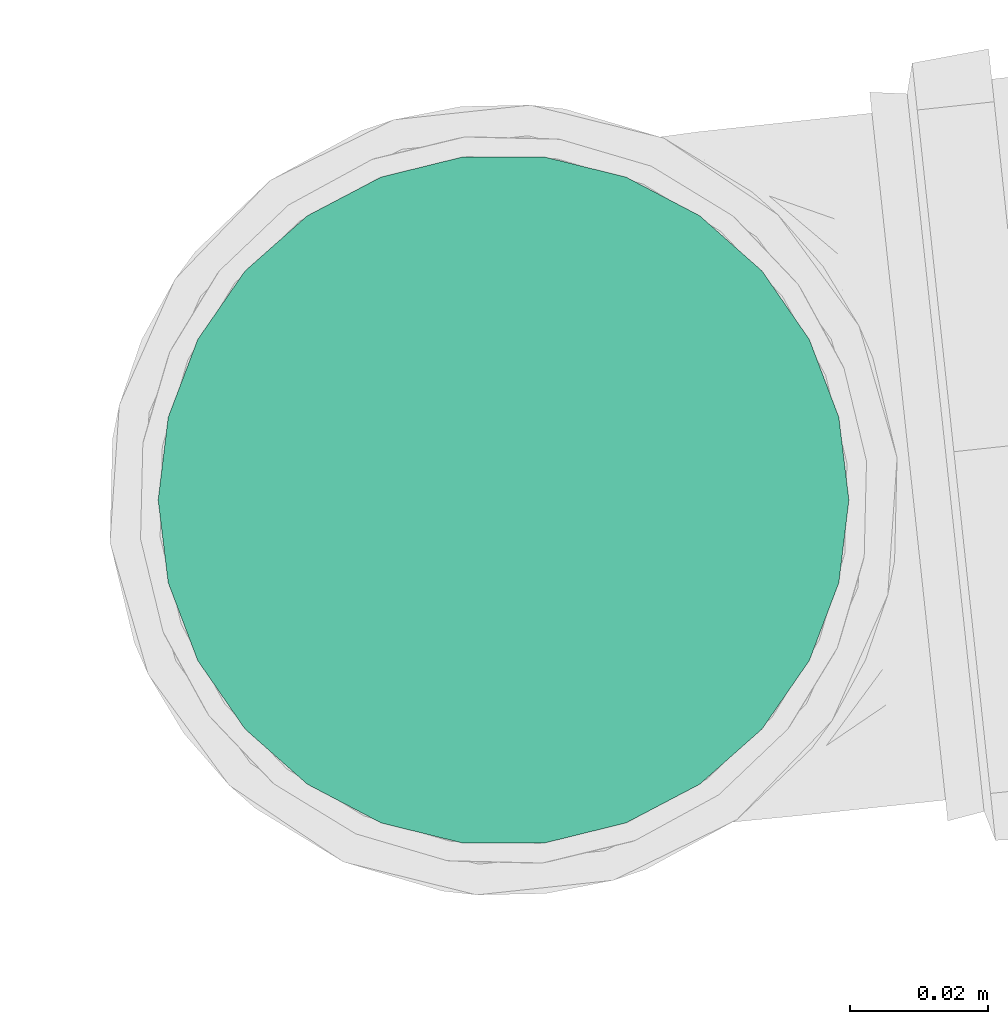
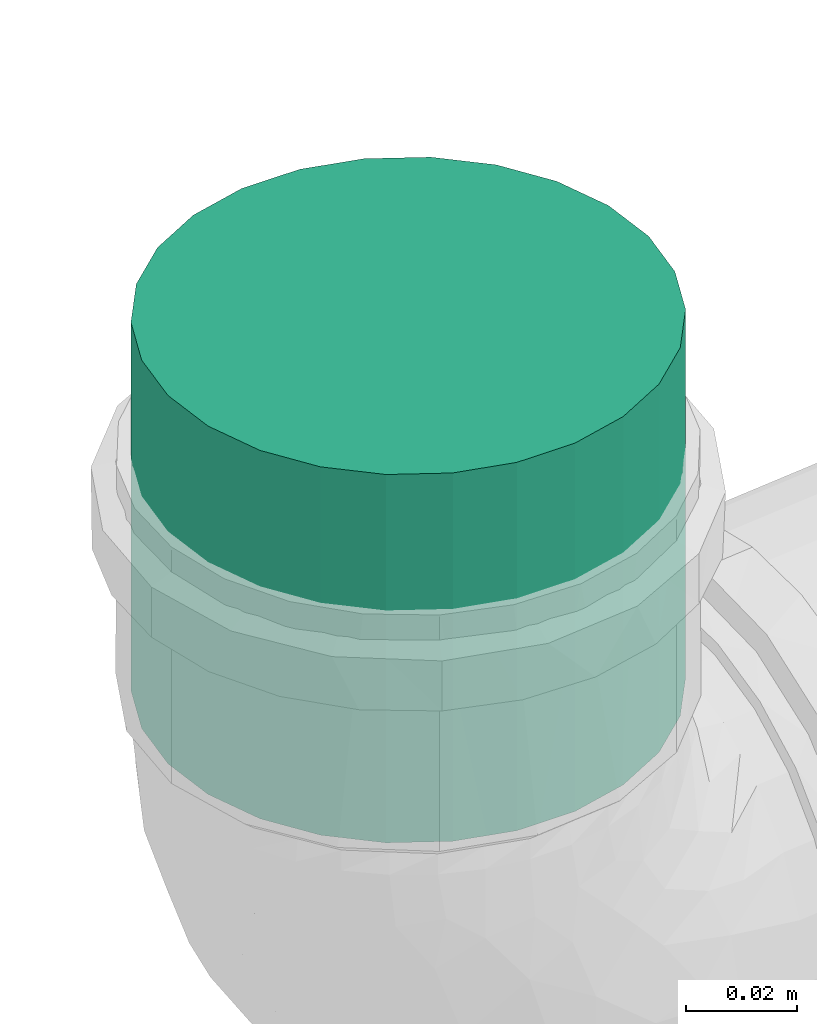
# One storey, part 36 of 97: 1 flow segment.
"""IFC2X3 building model written with IfcOpenShell, lengths in centimetres."""

from ifc_helpers import new_model, entity, si_unit, converted_unit, derived_unit, direction, frame, origin, origin_2d_with_axis, place, context, subcontext, project, spatial, circle, extrude, type_object, element, save


model = new_model("IFC2X3")

# Units and contexts
model_context = context("Model", 3, precision=0.001, world=origin(), true_north=direction((6.12303176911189e-17, 1.0)))
body_context = subcontext(model_context, "Body", "Model", "MODEL_VIEW")
ifc_project = project(units=[si_unit("LENGTHUNIT", "METRE", prefix="CENTI"), si_unit("AREAUNIT", "SQUARE_METRE"), si_unit("VOLUMEUNIT", "CUBIC_METRE"), converted_unit("PLANEANGLEUNIT", "DEGREE", entity("IfcRatioMeasure", 0.0174532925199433), si_unit("PLANEANGLEUNIT", "RADIAN"), dimensions=[0, 0, 0, 0, 0, 0, 0]), si_unit("MASSUNIT", "GRAM", prefix="KILO"), derived_unit("MASSDENSITYUNIT", [(si_unit("MASSUNIT", "GRAM", prefix="KILO"), 1), (si_unit("LENGTHUNIT", "METRE"), -3)]), derived_unit("MOMENTOFINERTIAUNIT", [(si_unit("LENGTHUNIT", "METRE"), 4)]), si_unit("TIMEUNIT", "SECOND"), si_unit("FREQUENCYUNIT", "HERTZ"), si_unit("THERMODYNAMICTEMPERATUREUNIT", "DEGREE_CELSIUS"), derived_unit("THERMALTRANSMITTANCEUNIT", [(si_unit("MASSUNIT", "GRAM", prefix="KILO"), 1), (si_unit("THERMODYNAMICTEMPERATUREUNIT", "KELVIN"), -1), (si_unit("TIMEUNIT", "SECOND"), -3)]), derived_unit("VOLUMETRICFLOWRATEUNIT", [(si_unit("LENGTHUNIT", "METRE"), 3), (si_unit("TIMEUNIT", "SECOND"), -1)]), si_unit("ELECTRICCURRENTUNIT", "AMPERE"), si_unit("ELECTRICVOLTAGEUNIT", "VOLT"), si_unit("POWERUNIT", "WATT"), si_unit("FORCEUNIT", "NEWTON", prefix="KILO"), si_unit("ILLUMINANCEUNIT", "LUX"), si_unit("LUMINOUSFLUXUNIT", "LUMEN"), si_unit("LUMINOUSINTENSITYUNIT", "CANDELA"), derived_unit("USERDEFINED", [(si_unit("MASSUNIT", "GRAM", prefix="KILO"), -1), (si_unit("LENGTHUNIT", "METRE"), -2), (si_unit("TIMEUNIT", "SECOND"), 3), (si_unit("LUMINOUSFLUXUNIT", "LUMEN"), 1)]), derived_unit("LINEARVELOCITYUNIT", [(si_unit("LENGTHUNIT", "METRE"), 1), (si_unit("TIMEUNIT", "SECOND"), -1)]), si_unit("PRESSUREUNIT", "PASCAL"), derived_unit("USERDEFINED", [(si_unit("LENGTHUNIT", "METRE"), -2), (si_unit("MASSUNIT", "GRAM", prefix="KILO"), 1), (si_unit("TIMEUNIT", "SECOND"), -2)]), derived_unit("LINEARFORCEUNIT", [(si_unit("MASSUNIT", "GRAM", prefix="KILO"), 1), (si_unit("LENGTHUNIT", "METRE"), 1), (si_unit("TIMEUNIT", "SECOND"), -2), (si_unit("LENGTHUNIT", "METRE"), -1)]), derived_unit("PLANARFORCEUNIT", [(si_unit("MASSUNIT", "GRAM", prefix="KILO"), 1), (si_unit("LENGTHUNIT", "METRE"), 1), (si_unit("TIMEUNIT", "SECOND"), -2), (si_unit("LENGTHUNIT", "METRE"), -2)])], contexts=[model_context])

# Site, building, storey
site_placement = place(None, origin())
site = spatial("IfcSite", under=ifc_project, at=site_placement, Name="Default", CompositionType="ELEMENT")
building_placement = place(site_placement, origin())
building = spatial("IfcBuilding", under=site, at=building_placement, Name="HIDROSSANITÁRIO", CompositionType="ELEMENT")
storey_placement = place(building_placement, frame((0.0, 0.0, -260.0)))
storey = spatial("IfcBuildingStorey", under=building, at=storey_placement, Name="TÉRREO-HID", CompositionType="ELEMENT", Elevation=-260.0)

# Flow segment
pipe_segment_type = type_object("IfcPipeSegmentType", Name="Tipos de tubos:Tubo - Esgoto - Série Normal", PredefinedType="NOTDEFINED")
flow_segment_placement = place(storey_placement, origin())
element("IfcFlowSegment", 1, at=flow_segment_placement, inside=storey, type_object=pipe_segment_type, Name="Tipos de tubos:Tubo - Esgoto - Série Normal", ObjectType="Tipos de tubos:Tubo - Esgoto - Série Normal", context=body_context, shape_type="SweptSolid", body=[
    extrude(circle(Radius=5.0, at=origin_2d_with_axis()), frame((2906.10266037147, -100.679871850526, 625.900000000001), z_axis=(0.0, 0.0, 1.0), x_axis=(-1.0, 0.0, 0.0)), (0.0, 0.0, 1.0), 8.09999999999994),
])

save(model, "model.ifc")
